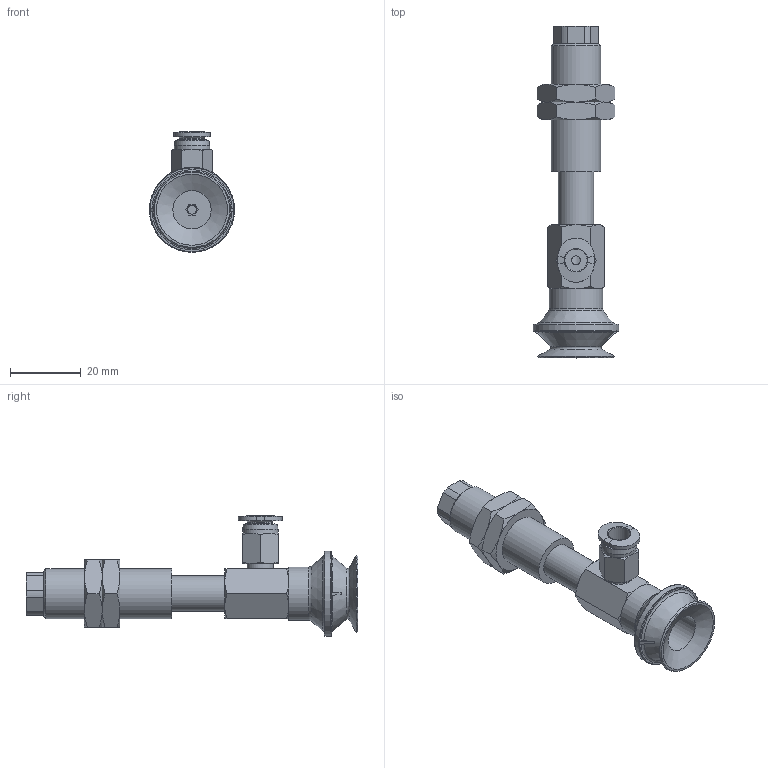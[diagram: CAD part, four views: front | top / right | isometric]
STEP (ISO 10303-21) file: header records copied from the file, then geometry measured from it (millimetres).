
FILE_DESCRIPTION(('STEP AP203'),'1');
FILE_NAME('-O.stp','2025-04-02T00:35:10',(' '),(' '),'Spatial InterOp 3D',' ',' ');
FILE_SCHEMA(('CONFIG_CONTROL_DESIGN'));
Length unit declared in the file: millimetre
Products named in the file (8): BNABPBYS-20-15-※-O; Adapter20-T-NAPB; CONNECTOR-20-15-PB; Nut-20-S-PB; NAPBTS-20-15--F; NAPBTS-20-15--M; BPBG-20-※; PC-C_06-M5
Assembly tree (8 placements, depth 2):
  BNABPBYS-20-15-※-O
    Adapter20-T-NAPB
    CONNECTOR-20-15-PB
    Nut-20-S-PB  x2
    NAPBTS-20-15--F
    NAPBTS-20-15--M
    BPBG-20-※
    PC-C_06-M5
Bounding box: 24 x 93.5 x 33.98 mm (x, y, z)
Volume: 15070.7 mm3; surface area: 12612 mm2
Topology: 7 solids, 10 shells, 206 faces, 442 edges, 270 vertices
Faces by surface type: plane 84, cone 72, cylinder 32, torus 11, bspline 4, revolution 3
Full cylindrical faces by diameter (mm): 2.5 x1, 3 x1, 4 x2, 4.134 x3, 4.6 x1, 5 x3, 7 x1, 7.4 x1, 8.2 x1, 10 x3, 10.8 x1, 11 x1, 12.917 x2, 14 x1, 15 x1, 24 x1
Entity records: 5496 total; most frequent: CARTESIAN_POINT 1469, DIRECTION 765, ORIENTED_EDGE 658, EDGE_CURVE 331, AXIS2_PLACEMENT_3D 329, EDGE_LOOP 264, VERTEX_POINT 231, FACE_OUTER_BOUND 155
